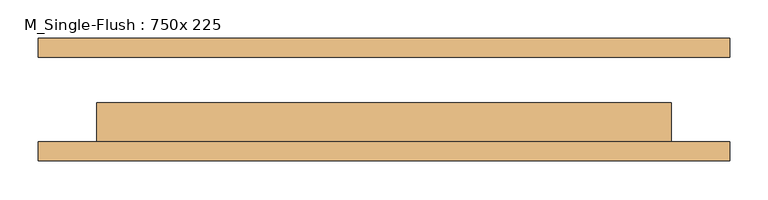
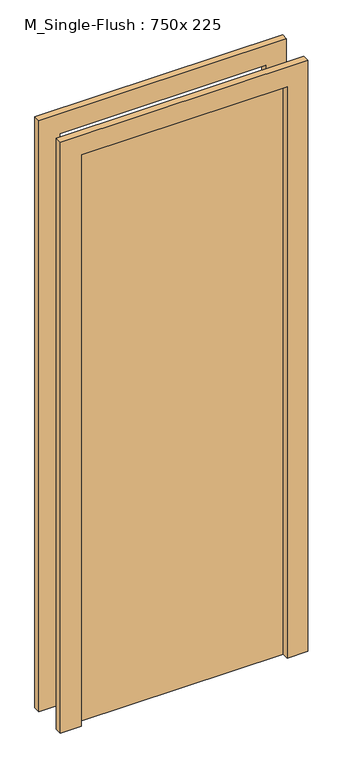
"""IFC4 building model written with IfcOpenShell, lengths in millimetres: door geometry, M_Single-Flush : 750x 225."""

from ifc_helpers import new_model, si_unit, frame, origin, origin_with_axes, place, context, project, spatial, polyline, outline, extrude, source, transform, mapped, element, save


def m_single_flush_750x_225_070f6889(model_context):
    return source(origin(), model_context, "Body", "SweptSolid", [
        extrude(outline(polyline([(2276.0, -451.0), (0.0, -451.0), (0.0, -375.0), (2200.0, -375.0), (2200.0, 375.0), (0.0, 375.0), (0.0, 451.0), (2276.0, 451.0), (2276.0, -451.0)])), frame((0.0, -80.0, 0.0), z_axis=(0.0, 1.0, 0.0), x_axis=(0.0, 0.0, 1.0)), (0.0, 0.0, 1.0), 25.0),
        extrude(outline(polyline([(2276.0, 451.0), (2276.0, -451.0), (0.0, -451.0), (0.0, -375.0), (2200.0, -375.0), (2200.0, 375.0), (0.0, 375.0), (0.0, 451.0), (2276.0, 451.0)])), frame((0.0, 55.0, 0.0), z_axis=(0.0, 1.0, 0.0), x_axis=(0.0, 0.0, 1.0)), (0.0, 0.0, 1.0), 25.0),
        extrude(outline(polyline([(375.0, -4.0), (375.0, -55.0), (-375.0, -55.0), (-375.0, -4.0), (375.0, -4.0)])), origin_with_axes(), (0.0, 0.0, 1.0), 2200.0),
    ])


if __name__ == "__main__":
    model = new_model("IFC4")
    model_context = context("Model", 3, world=origin())
    ifc_project = project(units=[si_unit("LENGTHUNIT", "METRE", prefix="MILLI")], contexts=[model_context])
    site = spatial("IfcSite", under=ifc_project)
    building = spatial("IfcBuilding", under=site)
    placement = place(None, origin())
    m_single_flush_750x_225_shape = m_single_flush_750x_225_070f6889(model_context)
    element("IfcDoor", 1, ObjectType="M_Single-Flush : 750x 225", at=placement, inside=building, context=model_context, shape_type="MappedRepresentation", body=[
        mapped(m_single_flush_750x_225_shape, transform((0.0, 0.0, 0.0), x_axis=(1.0, 0.0, 0.0), y_axis=(0.0, 1.0, 0.0), z_axis=(0.0, 0.0, 1.0))),
    ])
    save(model, "model.ifc")
